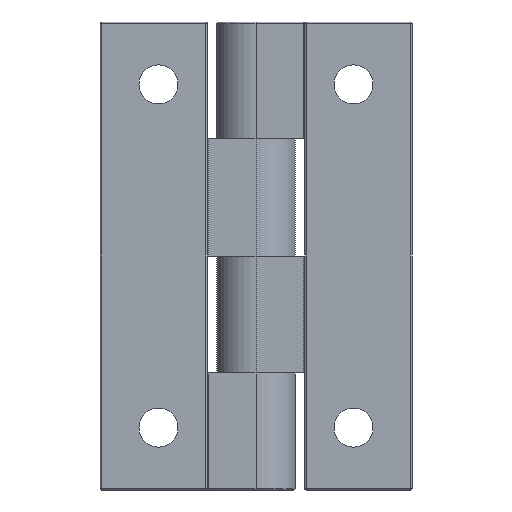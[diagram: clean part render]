
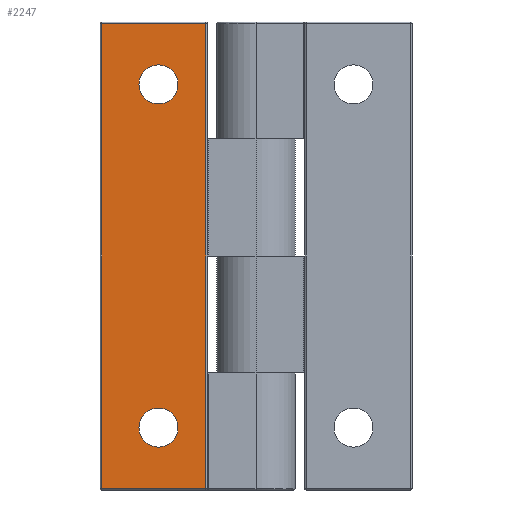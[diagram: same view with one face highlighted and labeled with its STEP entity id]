
A CAD part, front view. The second image highlights one B-rep face of the part: STEP entity #2247.
In plain terms, the highlighted planar face has unit normal (0, -1, 0).
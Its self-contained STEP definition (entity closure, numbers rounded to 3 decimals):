
#182=LINE('',#3652,#342);
#187=LINE('',#3680,#347);
#188=LINE('',#3682,#348);
#200=LINE('',#3733,#360);
#342=VECTOR('',#2868,59.6);
#347=VECTOR('',#2905,59.6);
#348=VECTOR('',#2908,13.35);
#360=VECTOR('',#2976,13.35);
#463=PLANE('',#2475);
#496=FACE_BOUND('',#740,.T.);
#497=FACE_BOUND('',#741,.T.);
#582=FACE_OUTER_BOUND('',#739,.T.);
#739=EDGE_LOOP('',(#1814,#1815,#1816,#1817));
#740=EDGE_LOOP('',(#1818));
#741=EDGE_LOOP('',(#1819));
#927=CIRCLE('',#2476,2.5);
#928=CIRCLE('',#2477,2.5);
#1081=VERTEX_POINT('',#3626);
#1085=VERTEX_POINT('',#3646);
#1087=VERTEX_POINT('',#3657);
#1093=VERTEX_POINT('',#3676);
#1106=VERTEX_POINT('',#3755);
#1107=VERTEX_POINT('',#3757);
#1312=EDGE_CURVE('',#1085,#1081,#182,.T.);
#1327=EDGE_CURVE('',#1087,#1093,#187,.T.);
#1328=EDGE_CURVE('',#1093,#1085,#188,.T.);
#1354=EDGE_CURVE('',#1081,#1087,#200,.T.);
#1364=EDGE_CURVE('',#1106,#1106,#927,.T.);
#1365=EDGE_CURVE('',#1107,#1107,#928,.T.);
#1814=ORIENTED_EDGE('',*,*,#1327,.F.);
#1815=ORIENTED_EDGE('',*,*,#1354,.F.);
#1816=ORIENTED_EDGE('',*,*,#1312,.F.);
#1817=ORIENTED_EDGE('',*,*,#1328,.F.);
#1818=ORIENTED_EDGE('',*,*,#1364,.T.);
#1819=ORIENTED_EDGE('',*,*,#1365,.T.);
#2247=ADVANCED_FACE('',(#582,#496,#497),#463,.T.);
#2475=AXIS2_PLACEMENT_3D('',#3754,#3007,#3008);
#2476=AXIS2_PLACEMENT_3D('',#3756,#3009,#3010);
#2477=AXIS2_PLACEMENT_3D('',#3758,#3011,#3012);
#2868=DIRECTION('',(0.,0.,1.));
#2905=DIRECTION('',(0.,0.,-1.));
#2908=DIRECTION('',(-1.,0.,0.));
#2976=DIRECTION('',(1.,0.,0.));
#3007=DIRECTION('center_axis',(0.,-1.,0.));
#3008=DIRECTION('ref_axis',(1.,0.,0.));
#3009=DIRECTION('center_axis',(0.,1.,0.));
#3010=DIRECTION('ref_axis',(1.,0.,0.));
#3011=DIRECTION('center_axis',(0.,1.,0.));
#3012=DIRECTION('ref_axis',(1.,0.,0.));
#3626=CARTESIAN_POINT('',(-19.8,-4.85,29.8));
#3646=CARTESIAN_POINT('',(-19.8,-4.85,-29.8));
#3652=CARTESIAN_POINT('',(-19.8,-4.85,0.));
#3657=CARTESIAN_POINT('',(-6.45,-4.85,29.8));
#3676=CARTESIAN_POINT('',(-6.45,-4.85,-29.8));
#3680=CARTESIAN_POINT('',(-6.45,-4.85,0.));
#3682=CARTESIAN_POINT('',(-16.44,-4.85,-29.8));
#3733=CARTESIAN_POINT('',(-16.44,-4.85,29.8));
#3754=CARTESIAN_POINT('Origin',(-20.,-4.85,0.));
#3755=CARTESIAN_POINT('',(-15.,-4.85,22.));
#3756=CARTESIAN_POINT('Origin',(-12.5,-4.85,22.));
#3757=CARTESIAN_POINT('',(-15.,-4.85,-22.));
#3758=CARTESIAN_POINT('Origin',(-12.5,-4.85,-22.));
